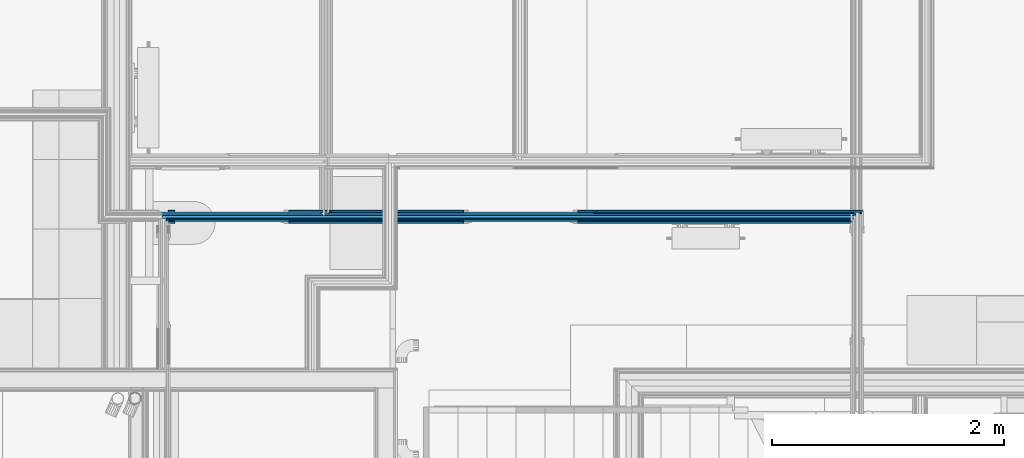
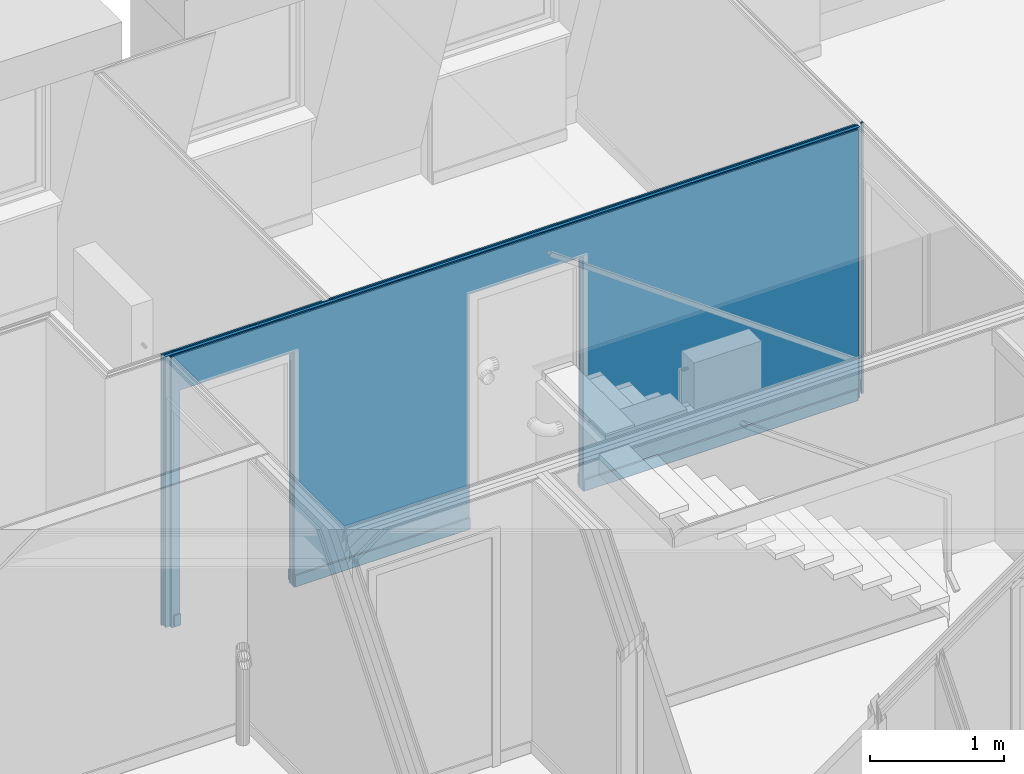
# One storey, part 43 of 169: 12 building element parts, 2 openings, 1 element without a shape of its own.
"""IFC2X3 building model written with IfcOpenShell, lengths in metres."""

from ifc_helpers import new_model, entity, si_unit, converted_unit, derived_unit, money_unit, direction, frame, frame_2d, origin_with_axes, place, context, subcontext, project, spatial, polyline, rectangle, outline, extrude, material, type_object, element, aggregate, save


model = new_model("IFC2X3")

# Units and contexts
model_context = context("Model", 3, precision=1e-05, world=origin_with_axes(), true_north=direction((0.0, 1.0)))
body_context = subcontext(model_context, "Body", "Model", "MODEL_VIEW", scale=1.0)
ifc_project = project(units=[si_unit("LENGTHUNIT", "METRE"), si_unit("AREAUNIT", "SQUARE_METRE"), si_unit("VOLUMEUNIT", "CUBIC_METRE"), si_unit("ABSORBEDDOSEUNIT", "GRAY"), si_unit("AMOUNTOFSUBSTANCEUNIT", "MOLE"), si_unit("DOSEEQUIVALENTUNIT", "SIEVERT"), si_unit("ELECTRICCAPACITANCEUNIT", "FARAD"), si_unit("ELECTRICCHARGEUNIT", "COULOMB"), si_unit("ELECTRICCONDUCTANCEUNIT", "SIEMENS"), si_unit("ELECTRICCURRENTUNIT", "AMPERE"), si_unit("ELECTRICRESISTANCEUNIT", "OHM"), si_unit("ELECTRICVOLTAGEUNIT", "VOLT"), si_unit("ENERGYUNIT", "JOULE"), si_unit("FORCEUNIT", "NEWTON"), si_unit("FREQUENCYUNIT", "HERTZ"), si_unit("ILLUMINANCEUNIT", "LUX"), si_unit("INDUCTANCEUNIT", "HENRY"), si_unit("LUMINOUSFLUXUNIT", "LUMEN"), si_unit("LUMINOUSINTENSITYUNIT", "CANDELA"), si_unit("MAGNETICFLUXDENSITYUNIT", "TESLA"), si_unit("MAGNETICFLUXUNIT", "WEBER"), si_unit("MASSUNIT", "GRAM"), converted_unit("PLANEANGLEUNIT", "degree", entity("IfcReal", 0.0174532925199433), si_unit("PLANEANGLEUNIT", "RADIAN"), dimensions=[0, 0, 0, 0, 0, 0, 0]), si_unit("POWERUNIT", "WATT"), si_unit("PRESSUREUNIT", "PASCAL"), si_unit("RADIOACTIVITYUNIT", "BECQUEREL"), si_unit("SOLIDANGLEUNIT", "STERADIAN"), si_unit("THERMODYNAMICTEMPERATUREUNIT", "KELVIN"), si_unit("TIMEUNIT", "SECOND"), derived_unit("ACCELERATIONUNIT", [(si_unit("LENGTHUNIT", "METRE"), 1), (si_unit("TIMEUNIT", "SECOND"), -2)]), derived_unit("ANGULARVELOCITYUNIT", [(converted_unit("PLANEANGLEUNIT", "degree", entity("IfcReal", 0.0174532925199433), si_unit("PLANEANGLEUNIT", "RADIAN"), dimensions=[0, 0, 0, 0, 0, 0, 0]), 1), (si_unit("TIMEUNIT", "SECOND"), -1)]), derived_unit("CURVATUREUNIT", [(converted_unit("PLANEANGLEUNIT", "degree", entity("IfcReal", 0.0174532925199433), si_unit("PLANEANGLEUNIT", "RADIAN"), dimensions=[0, 0, 0, 0, 0, 0, 0]), 1), (si_unit("LENGTHUNIT", "METRE"), -1)]), derived_unit("DYNAMICVISCOSITYUNIT", [(si_unit("PRESSUREUNIT", "PASCAL"), 1), (si_unit("TIMEUNIT", "SECOND"), 1)]), derived_unit("HEATFLUXDENSITYUNIT", [(si_unit("POWERUNIT", "WATT"), 1), (si_unit("LENGTHUNIT", "METRE"), -2)]), derived_unit("HEATINGVALUEUNIT", [(si_unit("ENERGYUNIT", "JOULE"), 1), (si_unit("MASSUNIT", "GRAM"), -1)]), derived_unit("INTEGERCOUNTRATEUNIT", [(si_unit("TIMEUNIT", "SECOND"), -1)]), derived_unit("IONCONCENTRATIONUNIT", [(si_unit("MASSUNIT", "GRAM"), 1), (si_unit("VOLUMEUNIT", "CUBIC_METRE"), -1)]), derived_unit("ISOTHERMALMOISTURECAPACITYUNIT", [(si_unit("VOLUMEUNIT", "CUBIC_METRE"), 1), (si_unit("MASSUNIT", "GRAM"), -1)]), derived_unit("KINEMATICVISCOSITYUNIT", [(si_unit("AREAUNIT", "SQUARE_METRE"), 1), (si_unit("TIMEUNIT", "SECOND"), -1)]), derived_unit("LINEARFORCEUNIT", [(si_unit("FORCEUNIT", "NEWTON"), 1), (si_unit("LENGTHUNIT", "METRE"), -1)]), derived_unit("LINEARMOMENTUNIT", [(si_unit("FORCEUNIT", "NEWTON"), 1), (si_unit("LENGTHUNIT", "METRE"), -1)]), derived_unit("LINEARSTIFFNESSUNIT", [(si_unit("FORCEUNIT", "NEWTON"), 1), (si_unit("LENGTHUNIT", "METRE"), -1)]), derived_unit("LINEARVELOCITYUNIT", [(si_unit("LENGTHUNIT", "METRE"), 1), (si_unit("TIMEUNIT", "SECOND"), -1)]), derived_unit("LUMINOUSINTENSITYDISTRIBUTIONUNIT", [(si_unit("LUMINOUSINTENSITYUNIT", "CANDELA"), 1), (si_unit("LUMINOUSFLUXUNIT", "LUMEN"), -1)]), derived_unit("MASSDENSITYUNIT", [(si_unit("MASSUNIT", "GRAM"), 1), (si_unit("VOLUMEUNIT", "CUBIC_METRE"), -1)]), derived_unit("MASSFLOWRATEUNIT", [(si_unit("MASSUNIT", "GRAM"), 1), (si_unit("TIMEUNIT", "SECOND"), -1)]), derived_unit("MASSPERLENGTHUNIT", [(si_unit("MASSUNIT", "GRAM"), 1), (si_unit("LENGTHUNIT", "METRE"), -1)]), derived_unit("MODULUSOFELASTICITYUNIT", [(si_unit("FORCEUNIT", "NEWTON"), 1), (si_unit("AREAUNIT", "SQUARE_METRE"), -1)]), derived_unit("MODULUSOFLINEARSUBGRADEREACTIONUNIT", [(si_unit("FORCEUNIT", "NEWTON"), 1), (si_unit("LENGTHUNIT", "METRE"), -2)]), derived_unit("MODULUSOFROTATIONALSUBGRADEREACTIONUNIT", [(si_unit("FORCEUNIT", "NEWTON"), 1), (si_unit("LENGTHUNIT", "METRE"), 1)]), derived_unit("MODULUSOFSUBGRADEREACTIONUNIT", [(si_unit("FORCEUNIT", "NEWTON"), 1), (si_unit("VOLUMEUNIT", "CUBIC_METRE"), -1)]), derived_unit("MOISTUREDIFFUSIVITYUNIT", [(si_unit("VOLUMEUNIT", "CUBIC_METRE"), 1), (si_unit("TIMEUNIT", "SECOND"), -1)]), derived_unit("MOLECULARWEIGHTUNIT", [(si_unit("MASSUNIT", "GRAM"), 1), (si_unit("AMOUNTOFSUBSTANCEUNIT", "MOLE"), -1)]), derived_unit("PLANARFORCEUNIT", [(si_unit("FORCEUNIT", "NEWTON"), 1), (si_unit("LENGTHUNIT", "METRE"), -2)]), derived_unit("ROTATIONALFREQUENCYUNIT", [(si_unit("TIMEUNIT", "SECOND"), -1)]), derived_unit("ROTATIONALMASSUNIT", [(si_unit("MASSUNIT", "GRAM"), 1), (si_unit("LENGTHUNIT", "METRE"), 2)]), derived_unit("ROTATIONALSTIFFNESSUNIT", [(si_unit("FORCEUNIT", "NEWTON"), 1), (si_unit("LENGTHUNIT", "METRE"), 1), (converted_unit("PLANEANGLEUNIT", "degree", entity("IfcReal", 0.0174532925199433), si_unit("PLANEANGLEUNIT", "RADIAN"), dimensions=[0, 0, 0, 0, 0, 0, 0]), -1)]), derived_unit("SECTIONAREAINTEGRALUNIT", [(si_unit("LENGTHUNIT", "METRE"), 5)]), derived_unit("SECTIONMODULUSUNIT", [(si_unit("LENGTHUNIT", "METRE"), 3)]), derived_unit("SHEARMODULUSUNIT", [(si_unit("FORCEUNIT", "NEWTON"), 1), (si_unit("AREAUNIT", "SQUARE_METRE"), -1)]), derived_unit("SOUNDPOWERUNIT", [(si_unit("ENERGYUNIT", "JOULE"), 1), (si_unit("TIMEUNIT", "SECOND"), -1)]), derived_unit("SPECIFICHEATCAPACITYUNIT", [(si_unit("FORCEUNIT", "NEWTON"), 1), (si_unit("MASSUNIT", "GRAM"), -1), (si_unit("THERMODYNAMICTEMPERATUREUNIT", "KELVIN"), -1)]), derived_unit("TEMPERATUREGRADIENTUNIT", [(si_unit("THERMODYNAMICTEMPERATUREUNIT", "KELVIN"), 1), (si_unit("LENGTHUNIT", "METRE"), -1)]), derived_unit("THERMALADMITTANCEUNIT", [(si_unit("POWERUNIT", "WATT"), 1), (si_unit("AREAUNIT", "SQUARE_METRE"), -1), (si_unit("THERMODYNAMICTEMPERATUREUNIT", "KELVIN"), -1)]), derived_unit("THERMALCONDUCTANCEUNIT", [(si_unit("POWERUNIT", "WATT"), 1), (si_unit("LENGTHUNIT", "METRE"), -1), (si_unit("THERMODYNAMICTEMPERATUREUNIT", "KELVIN"), -1)]), derived_unit("THERMALEXPANSIONCOEFFICIENTUNIT", [(si_unit("THERMODYNAMICTEMPERATUREUNIT", "KELVIN"), -1)]), derived_unit("THERMALRESISTANCEUNIT", [(si_unit("AREAUNIT", "SQUARE_METRE"), 1), (si_unit("POWERUNIT", "WATT"), -1)]), derived_unit("THERMALTRANSMITTANCEUNIT", [(si_unit("POWERUNIT", "WATT"), 1), (si_unit("AREAUNIT", "SQUARE_METRE"), -1), (si_unit("THERMODYNAMICTEMPERATUREUNIT", "KELVIN"), -1)]), derived_unit("TORQUEUNIT", [(si_unit("FORCEUNIT", "NEWTON"), 1), (si_unit("LENGTHUNIT", "METRE"), 1)]), derived_unit("VAPORPERMEABILITYUNIT", [(si_unit("MASSUNIT", "GRAM"), 1), (si_unit("TIMEUNIT", "SECOND"), -1)]), derived_unit("VOLUMETRICFLOWRATEUNIT", [(si_unit("VOLUMEUNIT", "CUBIC_METRE"), 1), (si_unit("TIMEUNIT", "SECOND"), -1)]), derived_unit("WARPINGCONSTANTUNIT", [(si_unit("LENGTHUNIT", "METRE"), 6)]), derived_unit("WARPINGMOMENTUNIT", [(si_unit("FORCEUNIT", "NEWTON"), 1), (si_unit("LENGTHUNIT", "METRE"), 2)]), money_unit("GBP")], contexts=[model_context])

# Site, building, storey
site_placement = place(None, origin_with_axes())
site = spatial("IfcSite", under=ifc_project, at=site_placement, Name="Site", CompositionType="ELEMENT")
building_placement = place(site_placement, origin_with_axes())
building = spatial("IfcBuilding", under=site, at=building_placement, Name="Building01", CompositionType="ELEMENT")
storey_placement = place(building_placement, frame((0.0, 0.0, 5.15), z_axis=(0.0, 0.0, 1.0), x_axis=(1.0, 0.0, 0.0)))
storey = spatial("IfcBuildingStorey", under=building, at=storey_placement, Name="1F", CompositionType="ELEMENT", Elevation=5.15)

# Wall, openings, building element parts
wall_type = type_object("IfcWallType", Name="SHE_A-Walls_Type05b_Partition_80mm", PredefinedType="NOTDEFINED")
wall_placement = place(storey_placement, frame((15.98644, 10.126939, 9.83), z_axis=(0.0, 0.0, 1.0), x_axis=(1.0, 0.0, 0.0)))
wall = element("IfcWall", 1, at=wall_placement, inside=storey, type_object=wall_type, Name="5B", ObjectType="SHE_A-Walls_Type05b_Partition_80mm")
opening_1_placement = place(wall_placement, frame((2.601536, -0.042, 0.0), z_axis=(0.0, 0.0, 1.0), x_axis=(1.0, 0.0, 0.0)))
element("IfcOpeningElement", 2, at=opening_1_placement, cuts=wall, Name="Opening", ObjectType="Opening", context=body_context, shape_type="SweptSolid", body=[
    extrude(rectangle(XDim=0.984, YDim=2.142, at=frame_2d((-0.492, 1.071), x_axis=(1.0, 0.0))), frame((0.0, 0.0, 0.0), z_axis=(0.0, 1.0, 0.0), x_axis=(-1.0, 0.0, 0.0)), (0.0, 0.0, 1.0), 0.11),
])
opening_2_placement = place(wall_placement, frame((0.11, -0.042, 0.0), z_axis=(0.0, 0.0, 1.0), x_axis=(1.0, 0.0, 0.0)))
element("IfcOpeningElement", 3, at=opening_2_placement, cuts=wall, Name="Opening", ObjectType="Opening", context=body_context, shape_type="SweptSolid", body=[
    extrude(rectangle(XDim=0.984, YDim=2.142, at=frame_2d((-0.492, 1.071), x_axis=(-1.0, 0.0))), frame((0.0, 0.0, 0.0), z_axis=(0.0, 1.0, 0.0), x_axis=(-1.0, 0.0, 0.0)), (0.0, 0.0, 1.0), 0.11),
])
ifc_material_1 = material(Name="A_BSUK_Walls_Timber")
placement = place(wall_placement, origin_with_axes())
building_element_part_1 = element("IfcBuildingElementPart", 4, at=placement, material=ifc_material_1, Name="1", context=body_context, shape_type="SweptSolid", body=[
    extrude(outline(polyline([(5.953536, -0.027), (0.052, -0.027), (0.052, -0.042), (5.938536, -0.042), (5.953536, -0.027)])), frame((0.0, 0.0, 0.015), z_axis=(0.0, 0.0, 1.0), x_axis=(1.0, 0.0, 0.0)), (0.0, 0.0, 1.0), 0.1),
])
ifc_material_2 = material(Name="A_BSUK_WallInternal_Finishes_Plasterboard")
building_element_part_2 = element("IfcBuildingElementPart", 5, at=placement, material=ifc_material_2, Name="2", context=body_context, shape_type="SweptSolid", body=[
    extrude(rectangle(XDim=5.916536, YDim=0.015, at=frame_2d((2.995268, -0.0195), x_axis=(-1.0, 0.0))), origin_with_axes(), (0.0, 0.0, 1.0), 2.468),
])
ifc_material_3 = material(Name="Air Cavity")
building_element_part_3 = element("IfcBuildingElementPart", 6, at=placement, material=ifc_material_3, Name="3", context=body_context, shape_type="SweptSolid", body=[
    extrude(rectangle(XDim=5.916536, YDim=0.012, at=frame_2d((2.995268, -0.006), x_axis=(-1.0, 0.0))), origin_with_axes(), (0.0, 0.0, 1.0), 2.468),
])
ifc_material_4 = material(Name="A_BSUK_Insulation")
building_element_part_4 = element("IfcBuildingElementPart", 7, at=placement, material=ifc_material_4, Name="4", context=body_context, shape_type="SweptSolid", body=[
    extrude(rectangle(XDim=5.981536, YDim=0.025, at=frame_2d((2.990768, 0.0125), x_axis=(-1.0, 0.0))), origin_with_axes(), (0.0, 0.0, 1.0), 2.468),
])
building_element_part_5 = element("IfcBuildingElementPart", 8, at=placement, material=ifc_material_3, Name="5", context=body_context, shape_type="SweptSolid", body=[
    extrude(rectangle(XDim=5.981536, YDim=0.013, at=frame_2d((2.990768, 0.0315), x_axis=(-1.0, 0.0))), origin_with_axes(), (0.0, 0.0, 1.0), 2.468),
])
building_element_part_6 = element("IfcBuildingElementPart", 9, at=placement, material=ifc_material_2, Name="6", context=body_context, shape_type="SweptSolid", body=[
    extrude(rectangle(XDim=1.386536, YDim=0.015, at=frame_2d((0.680268, 0.0455), x_axis=(-1.0, 0.0))), origin_with_axes(), (0.0, 0.0, 1.0), 2.468),
])
building_element_part_7 = element("IfcBuildingElementPart", 10, at=placement, material=ifc_material_2, Name="7", context=body_context, shape_type="SweptSolid", body=[
    extrude(rectangle(XDim=0.015, YDim=4.53, at=frame_2d((3.703536, 0.0455), x_axis=(0.0, -1.0))), origin_with_axes(), (0.0, 0.0, 1.0), 2.468),
])
building_element_part_8 = element("IfcBuildingElementPart", 11, at=placement, material=ifc_material_2, Name="8", context=body_context, shape_type="SweptSolid", body=[
    extrude(rectangle(XDim=2.24, YDim=0.015, at=frame_2d((4.848536, 0.0455), x_axis=(-1.0, 0.0))), origin_with_axes(), (0.0, 0.0, 1.0), 2.468),
])
building_element_part_9 = element("IfcBuildingElementPart", 12, at=placement, material=ifc_material_2, Name="9", context=body_context, shape_type="SweptSolid", body=[
    extrude(rectangle(XDim=0.01533, YDim=0.015, at=frame_2d((6.025871, 0.0455), x_axis=(-1.0, 0.0))), origin_with_axes(), (0.0, 0.0, 1.0), 2.468),
])
building_element_part_10 = element("IfcBuildingElementPart", 13, at=placement, material=ifc_material_1, Name="10", context=body_context, shape_type="SweptSolid", body=[
    extrude(outline(polyline([(6.048536, 0.068), (0.052, 0.068), (0.052, 0.053), (6.033536, 0.053), (6.048536, 0.068)])), frame((0.0, 0.0, 0.015), z_axis=(0.0, 0.0, 1.0), x_axis=(1.0, 0.0, 0.0)), (0.0, 0.0, 1.0), 0.1),
])
building_element_part_11 = element("IfcBuildingElementPart", 14, at=placement, material=ifc_material_1, Name="11", context=body_context, shape_type="SweptSolid", body=[
    extrude(outline(polyline([(6.048536, 0.068), (1.453536, 0.068), (1.453536, 0.053), (6.033536, 0.053), (6.048536, 0.068)])), frame((0.0, 0.0, 0.015), z_axis=(0.0, 0.0, 1.0), x_axis=(1.0, 0.0, 0.0)), (0.0, 0.0, 1.0), 0.1),
])
building_element_part_12 = element("IfcBuildingElementPart", 15, at=placement, material=ifc_material_1, Name="12", context=body_context, shape_type="SweptSolid", body=[
    extrude(outline(polyline([(6.048536, 0.068), (3.743536, 0.068), (3.743536, 0.053), (6.033536, 0.053), (6.048536, 0.068)])), frame((0.0, 0.0, 0.015), z_axis=(0.0, 0.0, 1.0), x_axis=(1.0, 0.0, 0.0)), (0.0, 0.0, 1.0), 0.1),
])
aggregate(wall, [building_element_part_1, building_element_part_2, building_element_part_3, building_element_part_4, building_element_part_5, building_element_part_6, building_element_part_7, building_element_part_8, building_element_part_9, building_element_part_10, building_element_part_11, building_element_part_12])

save(model, "model.ifc")
